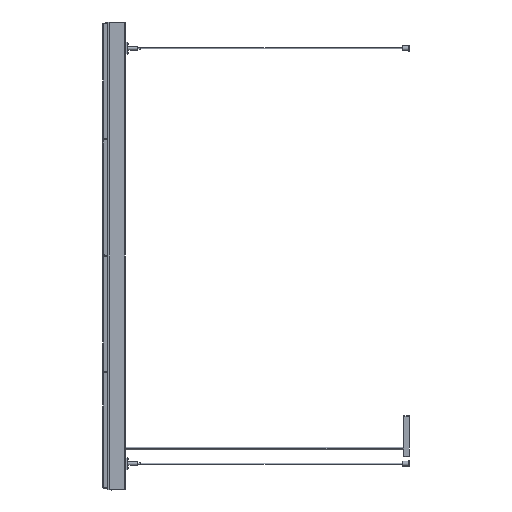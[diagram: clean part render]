
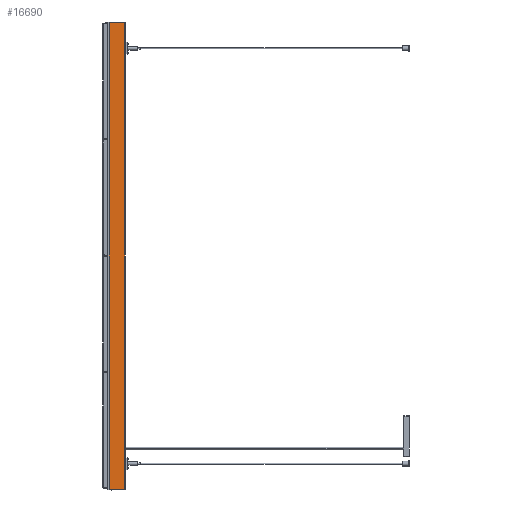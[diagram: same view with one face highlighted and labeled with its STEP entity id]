
A CAD part, left-side view. The second image highlights one B-rep face of the part: STEP entity #16690.
In plain terms, the highlighted planar face has unit normal (-1, 0, 0).
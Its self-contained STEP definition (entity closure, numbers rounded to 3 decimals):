
#76 = CARTESIAN_POINT ( 'NONE',  ( -21., 37.1, 1150. ) ) ;
#111 = EDGE_CURVE ( 'NONE', #16897, #1323, #1876, .T. ) ;
#981 = CARTESIAN_POINT ( 'NONE',  ( -21., 37.1, 1150. ) ) ;
#1323 = VERTEX_POINT ( 'NONE', #8739 ) ;
#1374 = VECTOR ( 'NONE', #8524, 1000. ) ;
#1667 = ORIENTED_EDGE ( 'NONE', *, *, #2557, .T. ) ;
#1876 = LINE ( 'NONE', #981, #1374 ) ;
#2121 = VECTOR ( 'NONE', #11149, 1000. ) ;
#2557 = EDGE_CURVE ( 'NONE', #12372, #11468, #15361, .T. ) ;
#3335 = DIRECTION ( 'NONE',  ( 1., 0., 0. ) ) ;
#4207 = EDGE_CURVE ( 'NONE', #16897, #12372, #7297, .T. ) ;
#6516 = PLANE ( 'NONE',  #15261 ) ;
#7123 = CARTESIAN_POINT ( 'NONE',  ( -21., 37.1, 0. ) ) ;
#7297 = LINE ( 'NONE', #15200, #11530 ) ;
#7654 = ORIENTED_EDGE ( 'NONE', *, *, #111, .F. ) ;
#8524 = DIRECTION ( 'NONE',  ( 0., -1., 0. ) ) ;
#8739 = CARTESIAN_POINT ( 'NONE',  ( -21., -1.2, 1150. ) ) ;
#11149 = DIRECTION ( 'NONE',  ( 0., -1., 0. ) ) ;
#11468 = VERTEX_POINT ( 'NONE', #15224 ) ;
#11530 = VECTOR ( 'NONE', #16102, 1000. ) ;
#12372 = VERTEX_POINT ( 'NONE', #7123 ) ;
#12465 = CARTESIAN_POINT ( 'NONE',  ( -21., 37.1, 0. ) ) ;
#13029 = CARTESIAN_POINT ( 'NONE',  ( -21., -1.2, 1150. ) ) ;
#13498 = CARTESIAN_POINT ( 'NONE',  ( -21., 37.1, 1150. ) ) ;
#14292 = VECTOR ( 'NONE', #14592, 1000. ) ;
#14521 = DIRECTION ( 'NONE',  ( 0., 1., 0. ) ) ;
#14592 = DIRECTION ( 'NONE',  ( 0., 0., -1. ) ) ;
#14802 = LINE ( 'NONE', #13029, #14292 ) ;
#15200 = CARTESIAN_POINT ( 'NONE',  ( -21., 37.1, 1150. ) ) ;
#15224 = CARTESIAN_POINT ( 'NONE',  ( -21., -1.2, 0. ) ) ;
#15261 = AXIS2_PLACEMENT_3D ( 'NONE', #76, #3335, #14521 ) ;
#15361 = LINE ( 'NONE', #12465, #2121 ) ;
#15913 = ORIENTED_EDGE ( 'NONE', *, *, #18251, .F. ) ;
#15964 = ORIENTED_EDGE ( 'NONE', *, *, #4207, .T. ) ;
#16102 = DIRECTION ( 'NONE',  ( 0., 0., -1. ) ) ;
#16690 = ADVANCED_FACE ( 'NONE', ( #18513 ), #6516, .F. ) ;
#16897 = VERTEX_POINT ( 'NONE', #13498 ) ;
#17822 = EDGE_LOOP ( 'NONE', ( #1667, #15913, #7654, #15964 ) ) ;
#18251 = EDGE_CURVE ( 'NONE', #1323, #11468, #14802, .T. ) ;
#18513 = FACE_OUTER_BOUND ( 'NONE', #17822, .T. ) ;
